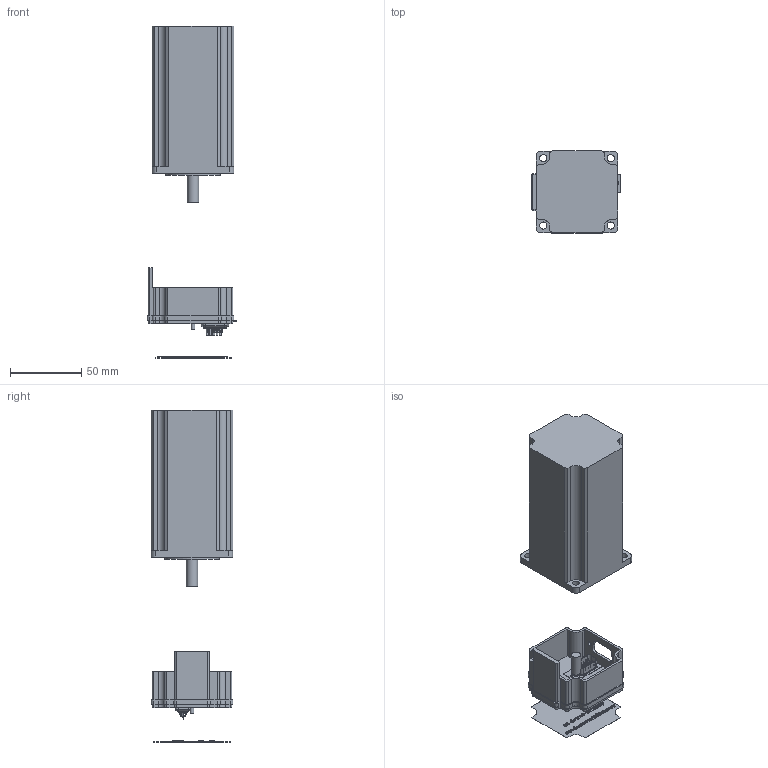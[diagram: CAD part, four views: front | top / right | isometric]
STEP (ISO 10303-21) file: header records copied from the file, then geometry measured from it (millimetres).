
FILE_DESCRIPTION(/* description */ ('Alibre Inc.'),/* implementation_level */ '2;1');
FILE_NAME(/* name */ 'export0',/* time_stamp */ '2008-02-02T08:58:47-08:00',/* author */ (''),/* organization */ (''),/* preprocessor_version */ 'ST-DEVELOPER v10',/* originating_system */ 'Alibre',/* authorisation */ '');
FILE_SCHEMA (('ALIBRE_SCHEMA','CONFIG_CONTROL_DESIGN'));
Length unit declared in the file: inch
Products named in the file (9): ID_1
Bounding box: 63.07 x 57.4 x 232.82 mm (x, y, z)
Volume: 324173.9 mm3; surface area: 55173 mm2
Topology: 63 solids, 63 shells, 1781 faces, 4605 edges, 3019 vertices
Faces by surface type: plane 799, bspline 641, cylinder 290, torus 50, cone 1
Full cylindrical faces by diameter (mm): 2.489 x1, 2.87 x1, 3.175 x2, 5.08 x4, 6.35 x2, 7.976 x1, 8.89 x1, 38.1 x1
Entity records: 111450 total; most frequent: CARTESIAN_POINT 33956, ORIENTED_EDGE 12008, DIRECTION 8304, EDGE_CURVE 5974, CONSTRAINTPAIRUV 4720, VECTOR 4347, LINE 4037, VERTEX_POINT 3899
